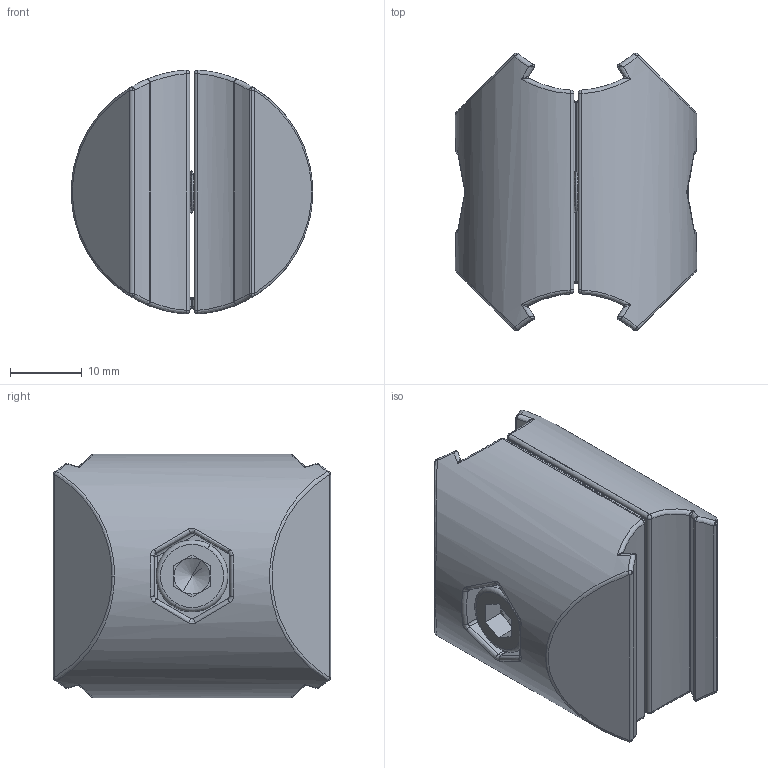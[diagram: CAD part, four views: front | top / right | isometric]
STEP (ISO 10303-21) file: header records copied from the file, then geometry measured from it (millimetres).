
FILE_DESCRIPTION (( 'STEP AP214' ), '1' );
FILE_NAME ('099rv28ps01.STEP', '2013-09-30T07:31:56', ( '' ), ( '' ), 'SwSTEP 2.0', 'SolidWorks 2012', '' );
FILE_SCHEMA (( 'AUTOMOTIVE_DESIGN' ));
Length unit declared in the file: millimetre
Products named in the file (4): 106019 - 4DIN912M0625M_DIN 912 M6 x 25 --- 25N; 4iso10511m06m_4iso10511m06m; 099rv28pr01; 099rv28ps01
Assembly tree (4 placements, depth 2):
  099rv28ps01
    099rv28pr01  x2
    4iso10511m06m_4iso10511m06m
    106019 - 4DIN912M0625M_DIN 912 M6 x 25 --- 25N
Bounding box: 33.59 x 38.61 x 33.94 mm (x, y, z)
Volume: 21622.1 mm3; surface area: 13185.1 mm2
Topology: 4 solids, 4 shells, 858 faces, 1900 edges, 1003 vertices
Faces by surface type: cylinder 252, torus 162, bspline 134, cone 116, plane 108, sphere 86
Entity records: 16252 total; most frequent: CARTESIAN_POINT 4625, DIRECTION 2617, ORIENTED_EDGE 2314, EDGE_CURVE 1157, AXIS2_PLACEMENT_3D 1131, CIRCLE 639, VERTEX_POINT 623, EDGE_LOOP 568
